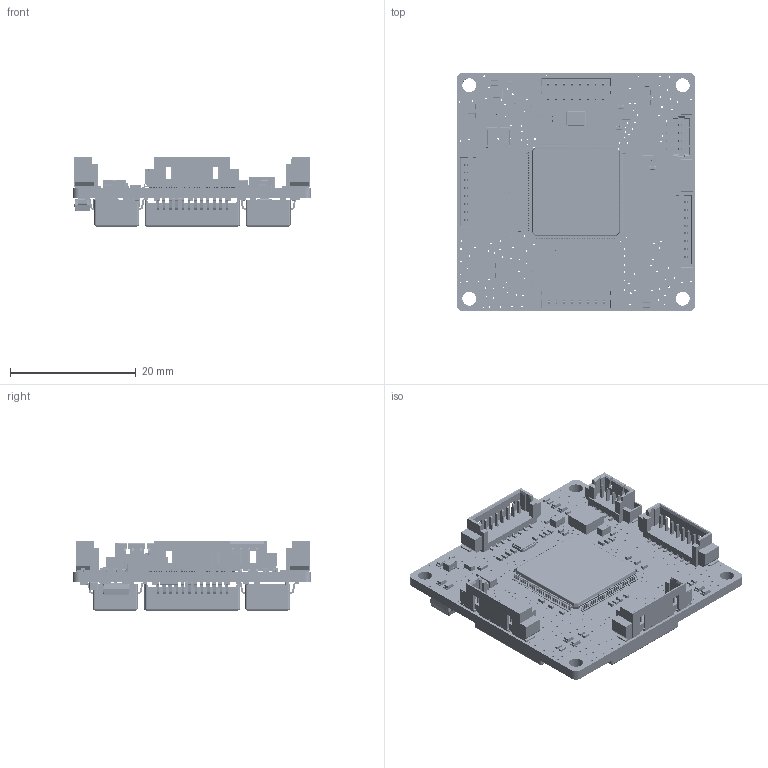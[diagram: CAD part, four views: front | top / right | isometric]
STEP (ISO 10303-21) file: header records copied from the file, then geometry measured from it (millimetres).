
FILE_DESCRIPTION(('Designed by EasyEDA Pro'),'2;1');
FILE_NAME('Open CASCADE Shape Model','2026-06-26T22:35:09',('Author'),( 'Open CASCADE'),'Open CASCADE STEP processor 7.8','Open CASCADE 7.8' ,'Unknown');
FILE_SCHEMA(('AUTOMOTIVE_DESIGN { 1 0 10303 214 1 1 1 1 }'));
Length unit declared in the file: millimetre
Products named in the file (477): EasyEDA PCB Model~e6j8; Board~e6j8; TopCopper~e6j8; BottomCopper~e6j8; TopSilkscreen~e6j8; BottomSilkscreen~e6j8; TopFpcStiffener~e6j8; BottomFpcStiffener~e6j8; 0805-1907~C0805_L2.0-W1.3-H1.3~G6tN; C87~0805-1907~C0805_L2.0-W1.3-H1.3~16yD; C1~0805-1907~C0805_L2.0-W1.3-H1.3~9HRu; C29~0805-1907~C0805_L2.0-W1.3-H1.3~Wf14; C30~0805-1907~C0805_L2.0-W1.3-H1.3~2DaK; C4~0805-1907~C0805_L2.0-W1.3-H1.3~cfyy; 1206~C1206_L3.2-W1.6-H1.3~m4Pc; PC7~1206~C1206_L3.2-W1.6-H1.3~jiLX; PC1~1206~C1206_L3.2-W1.6-H1.3~4QI3; Y-3225-210511~CRYSTAL-SMD_4P-L3.2-W2.5-BL~8YYT; Y~Y-3225-210511~CRYSTAL-SMD_4P-L3.2-W2.5-BL~jldv; LED-A~LED-0603_G~f8lU; POW~LED-A~LED-0603_G~rRRE; PL1~LED-A~LED-0603_G~qgem; PL2~LED-A~LED-0603_G~w8Hh; PL4~LED-A~LED-0603_G~c82k; PS1~LED-A~LED-0603_G~AuO5; PS2~LED-A~LED-0603_G~lpH9; PS3~LED-A~LED-0603_G~PLwp; PS4~LED-A~LED-0603_G~TCO2; PL3~LED-A~LED-0603_G~G8Sm; SOT-23-6P~SOT-23-6_L2.9-W1.6-P0.95-LS2.8-BL-1~BQ8f; U8~SOT-23-6P~SOT-23-6_L2.9-W1.6-P0.95-LS2.8-BL-1~QV8a; NS892407B~SMD-24_L15.1-W7.1-H4.5-P1.00-LS10.0-BL~kjBD; MA0~NS892407B~SMD-24_L15.1-W7.1-H4.5-P1.00-LS10.0-BL~YTka; MA2~NS892407B~SMD-24_L15.1-W7.1-H4.5-P1.00-LS10.0-BL~6AJ5; MA3~NS892407B~SMD-24_L15.1-W7.1-H4.5-P1.00-LS10.0-BL~2LAH; MA5~NS892407B~SMD-24_L15.1-W7.1-H4.5-P1.00-LS10.0-BL~qP0e; SMA-S-2204~SMA_L4.3-W2.6-LS5.0-FD~BiPb; D21~SMA-S-2204~SMA_L4.3-W2.6-LS5.0-FD~SoRm; D1~SMA-S-2204~SMA_L4.3-W2.6-LS5.0-FD~TRAj; RTL8367S-211210~TQFP-128_L14.0-W14.0-P0.40-LS16.0-BL-EP9.0~B1Ei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
Assembly tree (555 placements, depth 3):
  EasyEDA PCB Model~e6j8
    Board~e6j8
    TopCopper~e6j8
    BottomCopper~e6j8
    TopSilkscreen~e6j8
      TopSilkscreen~e6j8
      TopSilkscreen~e6j8
      TopSilkscreen~e6j8
      TopSilkscreen~e6j8
      TopSilkscreen~e6j8
      TopSilkscreen~e6j8
      TopSilkscreen~e6j8
      TopSilkscreen~e6j8
      TopSilkscreen~e6j8
      TopSilkscreen~e6j8
      TopSilkscreen~e6j8
      TopSilkscreen~e6j8
      TopSilkscreen~e6j8
      TopSilkscreen~e6j8
      TopSilkscreen~e6j8
      TopSilkscreen~e6j8
      TopSilkscreen~e6j8
      TopSilkscreen~e6j8
      TopSilkscreen~e6j8
      TopSilkscreen~e6j8
      TopSilkscreen~e6j8
      TopSilkscreen~e6j8
      TopSilkscreen~e6j8
      TopSilkscreen~e6j8
      TopSilkscreen~e6j8
      TopSilkscreen~e6j8
      TopSilkscreen~e6j8
      TopSilkscreen~e6j8
      TopSilkscreen~e6j8
      TopSilkscreen~e6j8
      TopSilkscreen~e6j8
      TopSilkscreen~e6j8
      TopSilkscreen~e6j8
      TopSilkscreen~e6j8
      TopSilkscreen~e6j8
      TopSilkscreen~e6j8
      TopSilkscreen~e6j8
      TopSilkscreen~e6j8
      TopSilkscreen~e6j8
      TopSilkscreen~e6j8
      TopSilkscreen~e6j8
      TopSilkscreen~e6j8
      TopSilkscreen~e6j8
      TopSilkscreen~e6j8
      TopSilkscreen~e6j8
      TopSilkscreen~e6j8
      TopSilkscreen~e6j8
      TopSilkscreen~e6j8
      TopSilkscreen~e6j8
      TopSilkscreen~e6j8
      TopSilkscreen~e6j8
      TopSilkscreen~e6j8
      TopSilkscreen~e6j8
      TopSilkscreen~e6j8
      TopSilkscreen~e6j8
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Bounding box: 37.97 x 37.97 x 11 mm (x, y, z)
Volume: 4859.1 mm3; surface area: 9015.8 mm2
Topology: 366 solids, 726 shells, 34702 faces, 128329 edges, 96475 vertices
Faces by surface type: plane 20677, bspline 9920, cylinder 3721, sphere 356, cone 16, torus 12
Entity records: 639789 total; most frequent: CARTESIAN_POINT 143956, ORIENTED_EDGE 78017, DIRECTION 70735, EDGE_CURVE 56314, VERTEX_POINT 49063, LINE 48721, VECTOR 48721, AXIS2_PLACEMENT_3D 11007
